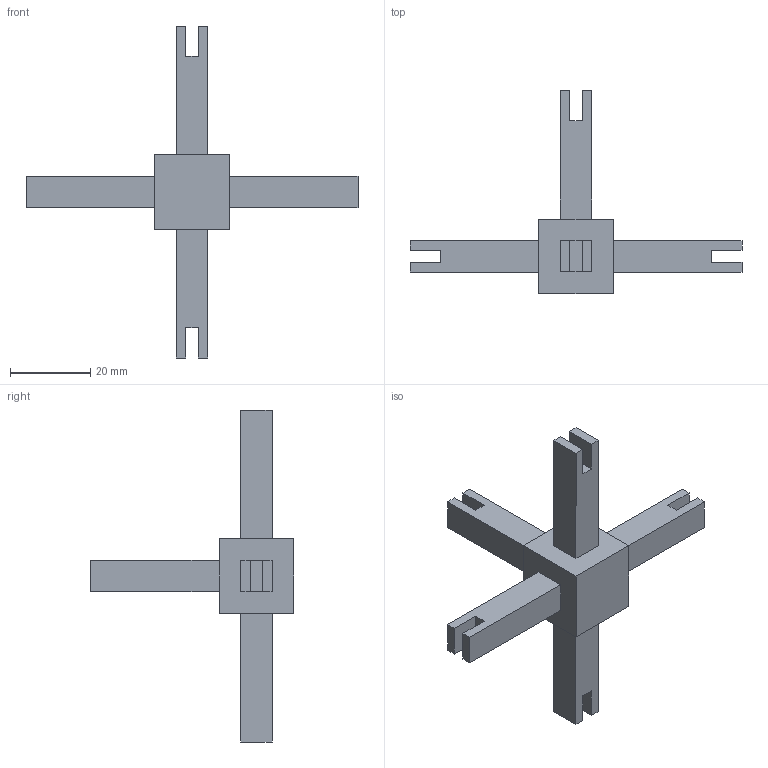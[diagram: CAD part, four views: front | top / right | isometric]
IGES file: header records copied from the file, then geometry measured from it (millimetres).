
Start section: Data from Parasolid IGES Translator 20.0.26, Copyright(c) 2006 Siemens P LM Software. All Rights Reserved.
Global section: file name: 9298837.igs; native system: By Siemens PLM Incorporated; preprocessor: XPlus GENERIC/IGES 20.0.26; author: Noname; organization: Noname; date: 20210823.122025; units: millimetre
Bounding box: 82.5 x 50.5 x 82.5 mm (x, y, z)
Surface area: 7405.5 mm2 (no closed solid volume)
Topology: 0 solids, 0 shells, 51 faces, 264 edges, 264 vertices
Faces by surface type: extrusion 51
